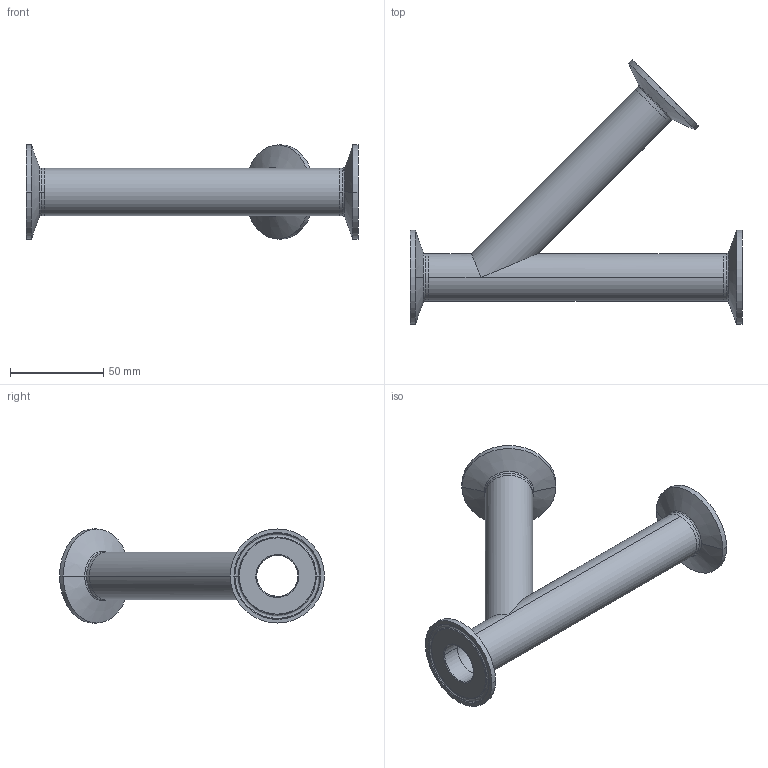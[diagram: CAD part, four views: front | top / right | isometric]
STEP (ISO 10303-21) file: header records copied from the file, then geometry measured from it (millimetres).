
FILE_DESCRIPTION (( 'STEP AP214' ), '1' );
FILE_NAME ('TEG28A6L1.0-...STEP', '2016-05-25T04:34:12', ( 'eran' ), ( '' ), 'SwSTEP 2.0', 'SolidWorks 2016', '' );
FILE_SCHEMA (( 'AUTOMOTIVE_DESIGN' ));
Length unit declared in the file: millimetre
Products named in the file (1): TEG28A6L1.0-..
Bounding box: 177.8 x 141.8 x 50.39 mm (x, y, z)
Volume: 57661.5 mm3; surface area: 54233.8 mm2
Topology: 4 solids, 4 shells, 88 faces, 208 edges, 130 vertices
Faces by surface type: bspline 30, cylinder 28, cone 18, plane 12
Entity records: 4153 total; most frequent: CARTESIAN_POINT 2107, DIRECTION 434, ORIENTED_EDGE 416, EDGE_CURVE 208, AXIS2_PLACEMENT_3D 193, CIRCLE 134, VERTEX_POINT 130, EDGE_LOOP 100
